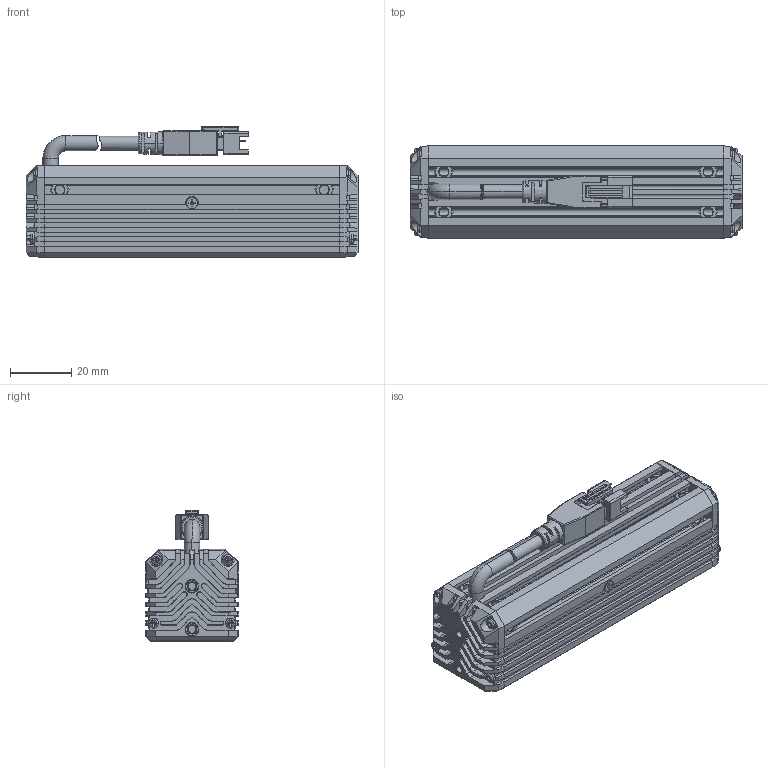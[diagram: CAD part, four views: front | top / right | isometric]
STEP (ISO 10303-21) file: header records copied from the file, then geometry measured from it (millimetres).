
FILE_DESCRIPTION((''),'2;1');
FILE_NAME('MV-LLDS-H-100-30-W-PL_ASM','2024-04-08T11:50:39',('huguozhe'),(''),'CREO PARAMETRIC BY PTC INC, 2020044','CREO PARAMETRIC BY PTC INC, 2020044','');
FILE_SCHEMA(('AUTOMOTIVE_DESIGN { 1 0 10303 214 1 1 1 1 }'));
Length unit declared in the file: millimetre
Products named in the file (15): DE-15-001077; DE-15-001076_ASM; DE-15-000466; DE-15-000465_ASM; DE-12-002271; TIP-M3X4-4_5X5-SO-ET-07061033; DE-12-002271_ASM; DE-12-001563; SC-KM2X6-BNI-GB819; XIANLAN_HEAD; CABLE_HEAD; CABLE_HEAD_ASM_ASM; 190100852; SC-PM2X6B-JMP; MV-LLDS-H-100-30-W-PL_ASM
Assembly tree (30 placements, depth 3):
  MV-LLDS-H-100-30-W-PL_ASM
    DE-15-001076_ASM
      DE-15-001077
    DE-15-000465_ASM
      DE-15-000466
    DE-12-002271_ASM  x2
      DE-12-002271
      TIP-M3X4-4_5X5-SO-ET-07061033
    DE-12-001563
    SC-KM2X6-BNI-GB819
    CABLE_HEAD_ASM_ASM
      XIANLAN_HEAD
      CABLE_HEAD
    190100852  x8
    SC-PM2X6B-JMP  x8
Bounding box: 108 x 30 x 42.65 mm (x, y, z)
Volume: 75730.6 mm3; surface area: 48509.5 mm2
Topology: 28 solids, 58 shells, 2621 faces, 6813 edges, 4303 vertices
Faces by surface type: plane 1254, cylinder 562, bspline 472, cone 280, torus 44, sphere 8, extrusion 1
Entity records: 46666 total; most frequent: CARTESIAN_POINT 10961, ORIENTED_EDGE 5944, DIRECTION 5688, EDGE_CURVE 2998, VECTOR 1938, LINE 1937, VERTEX_POINT 1921, AXIS2_PLACEMENT_3D 1875
